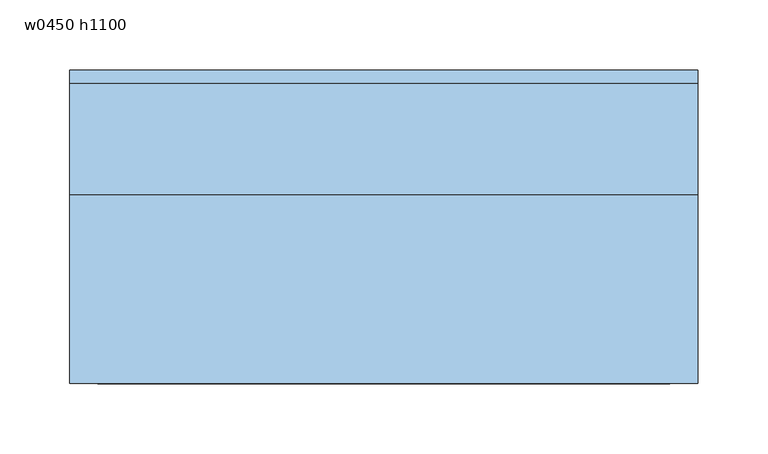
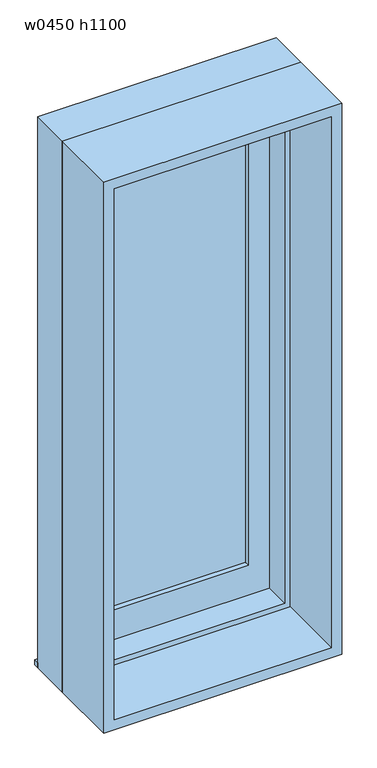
"""IFC4 building model written with IfcOpenShell, lengths in millimetres: window geometry, 窓-Fix-内付 : w0450 h1100."""

from ifc_helpers import new_model, si_unit, frame, origin, place, context, project, spatial, polyline, outline, extrude, source, transform, mapped, element, save


def w0450_h1100_93ba837a(model_context):
    return source(origin(), model_context, "Body", "SweptSolid", [
        extrude(outline(polyline([(60.0, 225.0), (1160.0, 225.0), (1160.0, -225.0), (60.0, -225.0), (60.0, 225.0)]), holes=[polyline([(80.0, 205.0), (80.0, -205.0), (1140.0, -205.0), (1140.0, 205.0), (80.0, 205.0)])]), frame((0.0, -115.0, 0.0), z_axis=(0.0, 1.0, 0.0), x_axis=(0.0, 0.0, 1.0)), (0.0, 0.0, 1.0), 135.0),
        extrude(outline(polyline([(60.0, -225.0), (60.0, 225.0), (1160.0, 225.0), (1160.0, -225.0), (60.0, -225.0)]), holes=[polyline([(90.0, -195.0), (1130.0, -195.0), (1130.0, 195.0), (90.0, 195.0), (90.0, -195.0)])]), frame((0.0, 20.0, 0.0), z_axis=(0.0, 1.0, 0.0), x_axis=(0.0, 0.0, 1.0)), (0.0, 0.0, 1.0), 80.0),
        extrude(outline(polyline([(155.0, 80.0), (-155.0, 80.0), (-155.0, 90.0), (155.0, 90.0), (155.0, 80.0)])), frame((0.0, 0.0, 150.0), z_axis=(0.0, 0.0, 1.0), x_axis=(1.0, 0.0, 0.0)), (0.0, 0.0, 1.0), 940.0),
        extrude(outline(polyline([(90.0, -195.0), (90.0, 195.0), (1130.0, 195.0), (1130.0, -195.0), (90.0, -195.0)]), holes=[polyline([(150.0, -155.0), (1090.0, -155.0), (1090.0, 155.0), (150.0, 155.0), (150.0, -155.0)])]), frame((0.0, 70.0, 0.0), z_axis=(0.0, 1.0, 0.0), x_axis=(0.0, 0.0, 1.0)), (0.0, 0.0, 1.0), 30.0),
        extrude(outline(polyline([(225.0, 110.0), (225.0, 100.0), (-225.0, 100.0), (-225.0, 110.0), (225.0, 110.0)])), frame((0.0, 0.0, 60.0), z_axis=(0.0, 0.0, 1.0), x_axis=(1.0, 0.0, 0.0)), (0.0, 0.0, 1.0), 10.0),
    ])


if __name__ == "__main__":
    model = new_model("IFC4")
    model_context = context("Model", 3, world=origin())
    ifc_project = project(units=[si_unit("LENGTHUNIT", "METRE", prefix="MILLI")], contexts=[model_context])
    site = spatial("IfcSite", under=ifc_project)
    building = spatial("IfcBuilding", under=site)
    placement = place(None, origin())
    w0450_h1100_shape = w0450_h1100_93ba837a(model_context)
    element("IfcWindow", 1, ObjectType="窓-Fix-内付 : w0450 h1100", at=placement, inside=building, context=model_context, shape_type="MappedRepresentation", body=[
        mapped(w0450_h1100_shape, transform((0.0, 0.0, 0.0), x_axis=(1.0, 0.0, 0.0), y_axis=(0.0, 1.0, 0.0), z_axis=(0.0, 0.0, 1.0))),
    ])
    save(model, "model.ifc")
